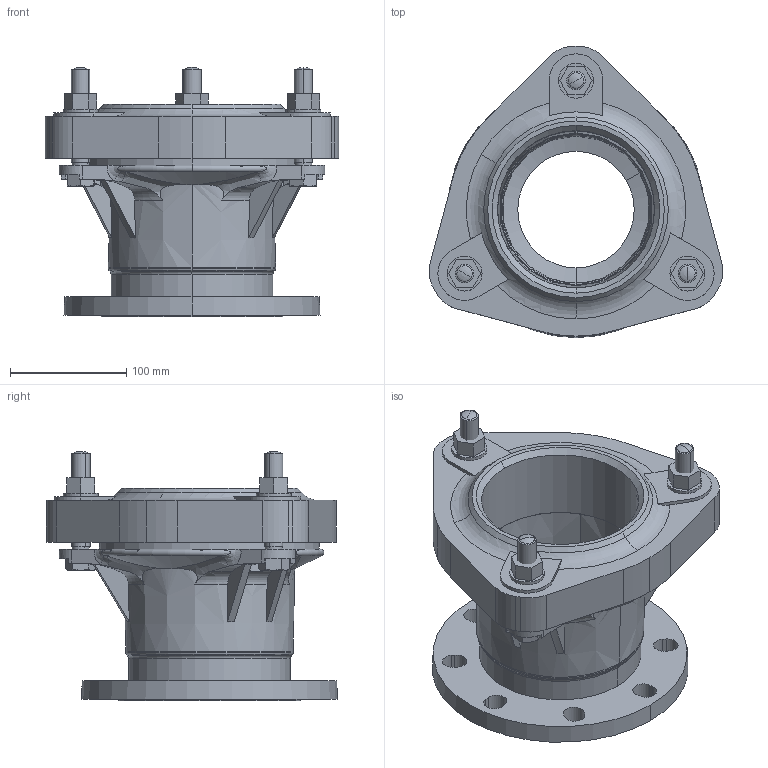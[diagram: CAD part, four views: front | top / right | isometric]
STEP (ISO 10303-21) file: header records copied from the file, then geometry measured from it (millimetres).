
FILE_DESCRIPTION((''),'2;1');
FILE_NAME('BIM_13199_6_ASM','2020-09-11T',('MReader'),(''),'CREO PARAMETRIC BY PTC INC, 2016130','CREO PARAMETRIC BY PTC INC, 2016130','');
FILE_SCHEMA(('CONFIG_CONTROL_DESIGN'));
Length unit declared in the file: millimetre
Products named in the file (6): BIM_12239; NEW_BIM_12199_1_AF0; 12327_14_AF0; 12327_14_AF1; 12327_14_AF2; BIM_13199_6_ASM
Assembly tree (5 placements, depth 2):
  BIM_13199_6_ASM
    BIM_12239
    NEW_BIM_12199_1_AF0
    12327_14_AF0
    12327_14_AF1
    12327_14_AF2
Bounding box: 252.28 x 250 x 214 mm (x, y, z)
Volume: 2263218.5 mm3; surface area: 368590.8 mm2
Topology: 5 solids, 8 shells, 318 faces, 837 edges, 537 vertices
Faces by surface type: plane 133, cylinder 79, cone 49, torus 36, bspline 15, sphere 6
Entity records: 12105 total; most frequent: CARTESIAN_POINT 4138, ORIENTED_EDGE 1650, DIRECTION 1639, EDGE_CURVE 831, AXIS2_PLACEMENT_3D 644, VERTEX_POINT 537, EDGE_LOOP 358, VECTOR 351
